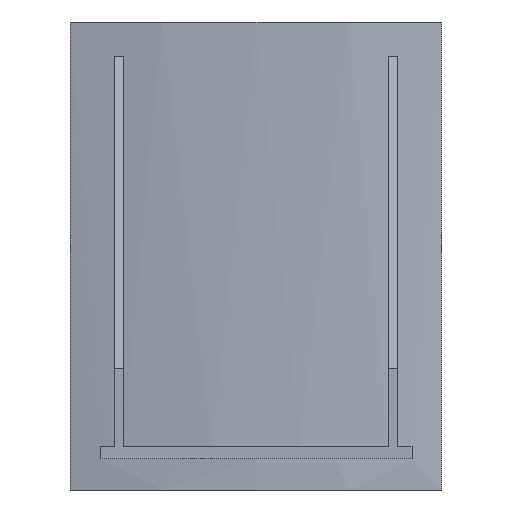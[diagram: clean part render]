
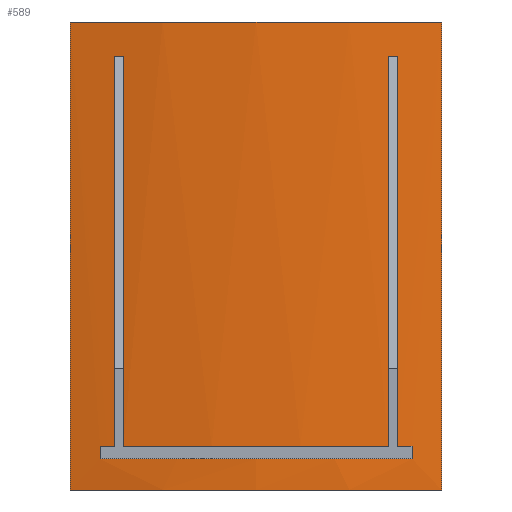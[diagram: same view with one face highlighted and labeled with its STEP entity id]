
A CAD part, left-side view. The second image highlights one B-rep face of the part: STEP entity #589.
In plain terms, the highlighted cylindrical face has radius 1093 mm (diameter 2186 mm), a partial arc.
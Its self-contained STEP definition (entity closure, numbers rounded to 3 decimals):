
#19=FACE_BOUND('',#103,.T.);
#28=CIRCLE('',#642,1093.);
#29=CIRCLE('',#644,1093.);
#30=CIRCLE('',#649,1093.);
#31=CIRCLE('',#651,1093.);
#32=CIRCLE('',#653,1093.);
#33=CIRCLE('',#654,1093.);
#40=CYLINDRICAL_SURFACE('',#652,1093.);
#67=FACE_OUTER_BOUND('',#102,.T.);
#102=EDGE_LOOP('',(#505,#506,#507,#508));
#103=EDGE_LOOP('',(#509,#510,#511,#512,#513,#514,#515,#516,#517,#518));
#157=LINE('',#945,#223);
#164=LINE('',#957,#230);
#165=LINE('',#967,#231);
#166=LINE('',#970,#232);
#167=LINE('',#971,#233);
#168=LINE('',#972,#234);
#223=VECTOR('',#774,10.);
#230=VECTOR('',#785,10.);
#231=VECTOR('',#798,10.);
#232=VECTOR('',#801,10.);
#233=VECTOR('',#802,10.);
#234=VECTOR('',#803,10.);
#265=VERTEX_POINT('',#892);
#266=VERTEX_POINT('',#894);
#272=VERTEX_POINT('',#912);
#275=VERTEX_POINT('',#924);
#277=VERTEX_POINT('',#935);
#279=VERTEX_POINT('',#941);
#281=VERTEX_POINT('',#944);
#284=VERTEX_POINT('',#955);
#285=VERTEX_POINT('',#963);
#286=VERTEX_POINT('',#964);
#287=VERTEX_POINT('',#966);
#288=VERTEX_POINT('',#968);
#345=EDGE_CURVE('',#275,#266,#28,.T.);
#347=EDGE_CURVE('',#277,#275,#29,.T.);
#351=EDGE_CURVE('',#281,#279,#157,.T.);
#358=EDGE_CURVE('',#284,#277,#164,.T.);
#359=EDGE_CURVE('',#279,#284,#30,.T.);
#360=EDGE_CURVE('',#266,#281,#31,.T.);
#361=EDGE_CURVE('',#285,#286,#32,.T.);
#362=EDGE_CURVE('',#286,#287,#165,.T.);
#363=EDGE_CURVE('',#288,#287,#33,.T.);
#364=EDGE_CURVE('',#285,#288,#166,.T.);
#365=EDGE_CURVE('',#275,#272,#167,.T.);
#366=EDGE_CURVE('',#266,#265,#168,.T.);
#505=ORIENTED_EDGE('',*,*,#361,.T.);
#506=ORIENTED_EDGE('',*,*,#362,.T.);
#507=ORIENTED_EDGE('',*,*,#363,.F.);
#508=ORIENTED_EDGE('',*,*,#364,.F.);
#509=ORIENTED_EDGE('',*,*,#358,.T.);
#510=ORIENTED_EDGE('',*,*,#347,.T.);
#511=ORIENTED_EDGE('',*,*,#365,.T.);
#512=ORIENTED_EDGE('',*,*,#365,.F.);
#513=ORIENTED_EDGE('',*,*,#345,.T.);
#514=ORIENTED_EDGE('',*,*,#366,.T.);
#515=ORIENTED_EDGE('',*,*,#366,.F.);
#516=ORIENTED_EDGE('',*,*,#360,.T.);
#517=ORIENTED_EDGE('',*,*,#351,.T.);
#518=ORIENTED_EDGE('',*,*,#359,.T.);
#589=ADVANCED_FACE('',(#67,#19),#40,.T.);
#642=AXIS2_PLACEMENT_3D('',#932,#762,#763);
#644=AXIS2_PLACEMENT_3D('',#936,#767,#768);
#649=AXIS2_PLACEMENT_3D('',#959,#788,#789);
#651=AXIS2_PLACEMENT_3D('',#961,#792,#793);
#652=AXIS2_PLACEMENT_3D('',#962,#794,#795);
#653=AXIS2_PLACEMENT_3D('',#965,#796,#797);
#654=AXIS2_PLACEMENT_3D('',#969,#799,#800);
#762=DIRECTION('center_axis',(0.,0.,1.));
#763=DIRECTION('ref_axis',(-0.976,0.218,0.));
#767=DIRECTION('center_axis',(0.,0.,1.));
#768=DIRECTION('ref_axis',(-0.976,0.218,0.));
#774=DIRECTION('',(0.,0.,-1.));
#785=DIRECTION('',(0.,0.,1.));
#788=DIRECTION('center_axis',(0.,0.,-1.));
#789=DIRECTION('ref_axis',(-0.976,0.218,0.));
#792=DIRECTION('center_axis',(0.,0.,1.));
#793=DIRECTION('ref_axis',(-0.976,0.218,0.));
#794=DIRECTION('center_axis',(0.,0.,1.));
#795=DIRECTION('ref_axis',(-0.976,0.218,0.));
#796=DIRECTION('center_axis',(0.,0.,1.));
#797=DIRECTION('ref_axis',(-0.976,0.218,0.));
#798=DIRECTION('',(0.,0.,1.));
#799=DIRECTION('center_axis',(0.,0.,1.));
#800=DIRECTION('ref_axis',(-0.976,0.218,0.));
#801=DIRECTION('',(0.,0.,1.));
#802=DIRECTION('',(0.,0.,1.));
#803=DIRECTION('',(0.,0.,1.));
#892=CARTESIAN_POINT('',(-1079.699,-170.,556.));
#894=CARTESIAN_POINT('',(-1079.699,-170.,56.));
#912=CARTESIAN_POINT('',(-1079.699,170.,556.));
#924=CARTESIAN_POINT('',(-1079.699,170.,56.));
#932=CARTESIAN_POINT('Origin',(0.,0.,56.));
#935=CARTESIAN_POINT('',(-1074.546,200.,56.));
#936=CARTESIAN_POINT('Origin',(0.,0.,56.));
#941=CARTESIAN_POINT('',(-1074.546,-200.,40.));
#944=CARTESIAN_POINT('',(-1074.546,-200.,56.));
#945=CARTESIAN_POINT('',(-1074.546,-200.,0.));
#955=CARTESIAN_POINT('',(-1074.546,200.,40.));
#957=CARTESIAN_POINT('',(-1074.546,200.,0.));
#959=CARTESIAN_POINT('Origin',(0.,0.,40.));
#961=CARTESIAN_POINT('Origin',(0.,0.,56.));
#962=CARTESIAN_POINT('Origin',(0.,0.,0.));
#963=CARTESIAN_POINT('',(-1066.756,238.076,0.));
#964=CARTESIAN_POINT('',(-1066.756,-238.076,0.));
#965=CARTESIAN_POINT('Origin',(0.,0.,0.));
#966=CARTESIAN_POINT('',(-1066.756,-238.076,600.));
#967=CARTESIAN_POINT('',(-1066.756,-238.076,0.));
#968=CARTESIAN_POINT('',(-1066.756,238.076,600.));
#969=CARTESIAN_POINT('Origin',(0.,0.,600.));
#970=CARTESIAN_POINT('',(-1066.756,238.076,0.));
#971=CARTESIAN_POINT('',(-1079.699,170.,0.));
#972=CARTESIAN_POINT('',(-1079.699,-170.,0.));
